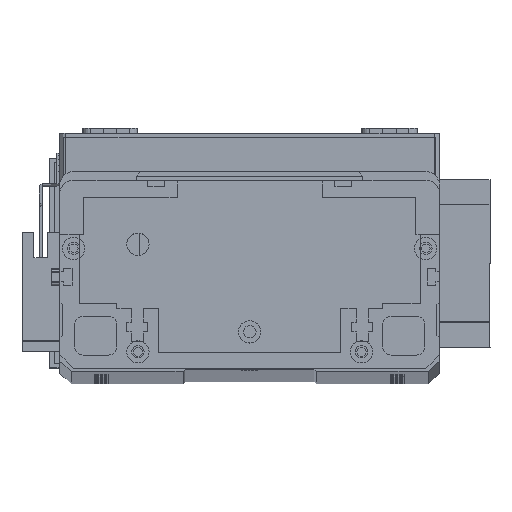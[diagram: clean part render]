
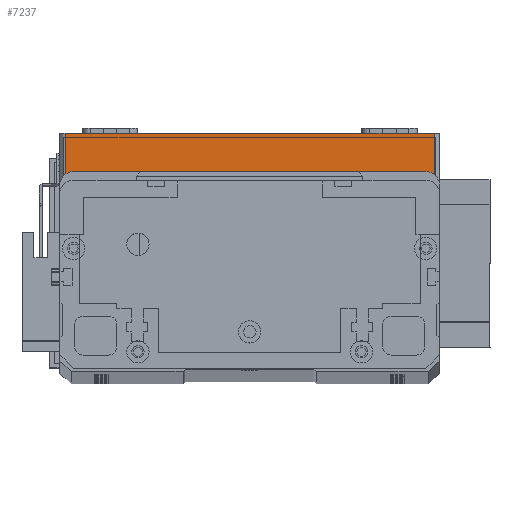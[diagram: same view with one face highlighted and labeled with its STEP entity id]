
A CAD part, top view. The second image highlights one B-rep face of the part: STEP entity #7237.
In plain terms, the highlighted planar face has unit normal (0, 0, 1) as drawn and (0, -1, 0) by its records, which use the part's own axes.
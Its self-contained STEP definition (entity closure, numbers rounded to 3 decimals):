
#442 = CARTESIAN_POINT ( 'NONE',  ( 0., 0., 19.5 ) ) ;
#1423 = LINE ( 'NONE', #27246, #6979 ) ;
#2263 = VERTEX_POINT ( 'NONE', #23567 ) ;
#3299 = VERTEX_POINT ( 'NONE', #5068 ) ;
#3450 = CARTESIAN_POINT ( 'NONE',  ( 134., 0., 19.5 ) ) ;
#5068 = CARTESIAN_POINT ( 'NONE',  ( 134., 0., 19.5 ) ) ;
#5405 = PLANE ( 'NONE',  #19231 ) ;
#6979 = VECTOR ( 'NONE', #24845, 1000. ) ;
#7237 = ADVANCED_FACE ( 'NONE', ( #28145 ), #5405, .F. ) ;
#7769 = DIRECTION ( 'NONE',  ( 0., 1., 0. ) ) ;
#8100 = DIRECTION ( 'NONE',  ( 1., 0., 0. ) ) ;
#8824 = EDGE_CURVE ( 'NONE', #10873, #21907, #1423, .T. ) ;
#10586 = DIRECTION ( 'NONE',  ( 0., 0., 1. ) ) ;
#10873 = VERTEX_POINT ( 'NONE', #24638 ) ;
#12604 = ORIENTED_EDGE ( 'NONE', *, *, #13019, .F. ) ;
#13019 = EDGE_CURVE ( 'NONE', #10873, #3299, #21170, .T. ) ;
#14127 = ORIENTED_EDGE ( 'NONE', *, *, #8824, .T. ) ;
#14889 = VECTOR ( 'NONE', #21702, 1000. ) ;
#16821 = EDGE_CURVE ( 'NONE', #21907, #2263, #29460, .T. ) ;
#17883 = CARTESIAN_POINT ( 'NONE',  ( 2., 0., 0. ) ) ;
#19231 = AXIS2_PLACEMENT_3D ( 'NONE', #28951, #7769, #24284 ) ;
#19683 = ORIENTED_EDGE ( 'NONE', *, *, #22784, .T. ) ;
#20388 = EDGE_LOOP ( 'NONE', ( #12604, #14127, #27159, #19683 ) ) ;
#20711 = VECTOR ( 'NONE', #10586, 1000. ) ;
#21170 = LINE ( 'NONE', #442, #14889 ) ;
#21684 = VECTOR ( 'NONE', #8100, 1000. ) ;
#21702 = DIRECTION ( 'NONE',  ( 1., 0., 0. ) ) ;
#21907 = VERTEX_POINT ( 'NONE', #17883 ) ;
#22784 = EDGE_CURVE ( 'NONE', #2263, #3299, #27752, .T. ) ;
#23567 = CARTESIAN_POINT ( 'NONE',  ( 134., 0., 0. ) ) ;
#24284 = DIRECTION ( 'NONE',  ( 0., 0., 1. ) ) ;
#24628 = CARTESIAN_POINT ( 'NONE',  ( 0., 0., 0. ) ) ;
#24638 = CARTESIAN_POINT ( 'NONE',  ( 2., 0., 19.5 ) ) ;
#24845 = DIRECTION ( 'NONE',  ( 0., 0., -1. ) ) ;
#27159 = ORIENTED_EDGE ( 'NONE', *, *, #16821, .T. ) ;
#27246 = CARTESIAN_POINT ( 'NONE',  ( 2., 0., 19.5 ) ) ;
#27752 = LINE ( 'NONE', #3450, #20711 ) ;
#28145 = FACE_OUTER_BOUND ( 'NONE', #20388, .T. ) ;
#28951 = CARTESIAN_POINT ( 'NONE',  ( 0., 0., 19.5 ) ) ;
#29460 = LINE ( 'NONE', #24628, #21684 ) ;
